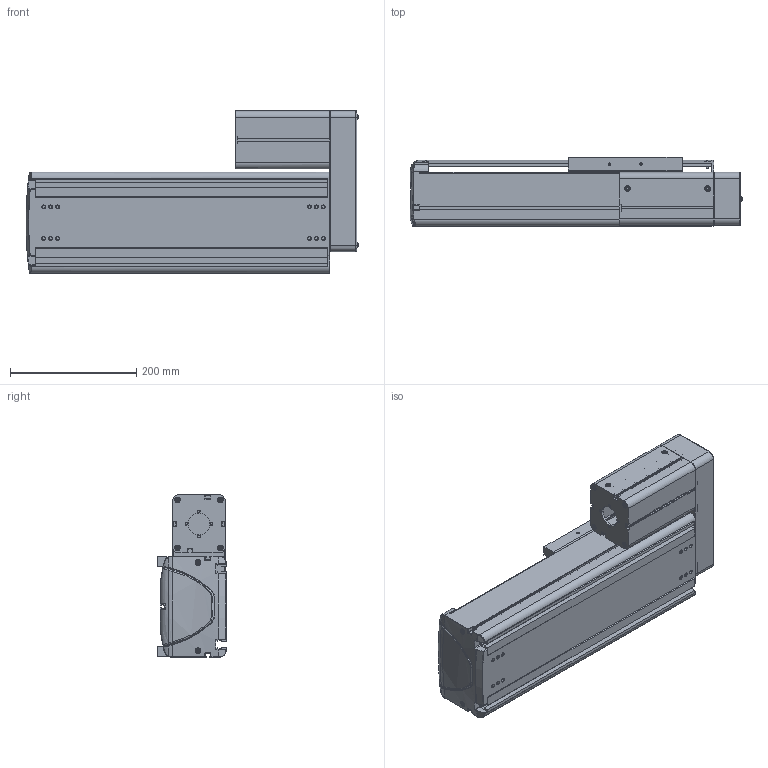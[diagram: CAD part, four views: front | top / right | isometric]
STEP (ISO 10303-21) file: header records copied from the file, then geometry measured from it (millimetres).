
FILE_DESCRIPTION((''),'2;1');
FILE_NAME('BE50F-UR-M_N-20_IGS_PRT','2017-06-18T',(' '),(''),'PRO/ENGINEER BY PARAMETRIC TECHNOLOGY CORPORATION, 2015030','PRO/ENGINEER BY PARAMETRIC TECHNOLOGY CORPORATION, 2015030','');
FILE_SCHEMA(('CONFIG_CONTROL_DESIGN'));
Length unit declared in the file: millimetre
Products named in the file (1): BE50F-UR-M_N-20_IGS_PRT
Bounding box: 525.88 x 110 x 257 mm (x, y, z)
Volume: 2945363.8 mm3; surface area: 1106177.8 mm2
Topology: 2 solids, 105 shells, 2075 faces, 5558 edges, 3612 vertices
Faces by surface type: plane 990, cylinder 835, cone 105, torus 59, bspline 54, sphere 32
Entity records: 67922 total; most frequent: CARTESIAN_POINT 15284, DIRECTION 11108, ORIENTED_EDGE 10664, EDGE_CURVE 5524, AXIS2_PLACEMENT_3D 3931, VERTEX_POINT 3612, VECTOR 3246, LINE 3246
